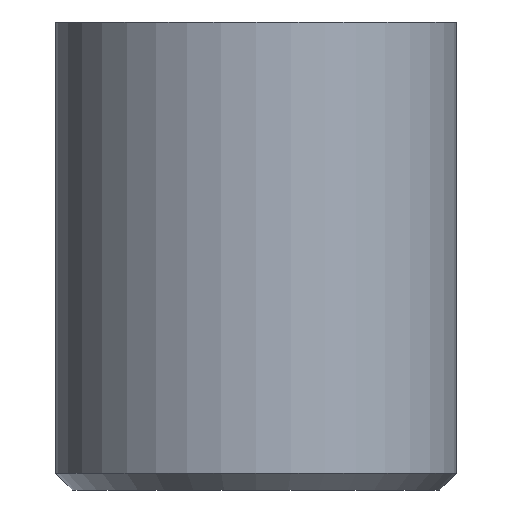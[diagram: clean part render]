
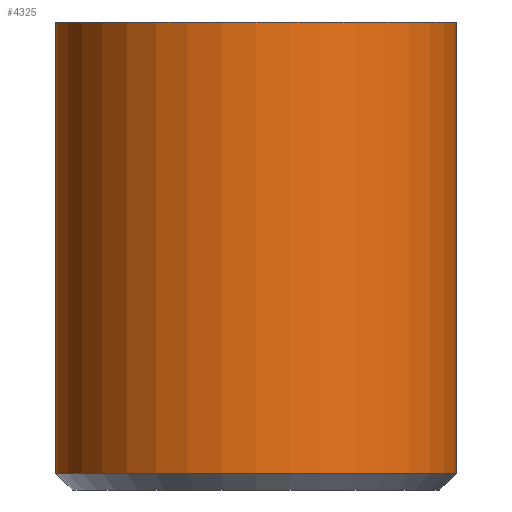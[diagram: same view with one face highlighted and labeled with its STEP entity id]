
A CAD part, front view. The second image highlights one B-rep face of the part: STEP entity #4325.
In plain terms, the highlighted cylindrical face has radius 6 mm (diameter 12 mm), a full revolution.
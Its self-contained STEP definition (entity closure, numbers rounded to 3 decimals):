
#425=CYLINDRICAL_SURFACE('',#4478,6.);
#668=FACE_OUTER_BOUND('',#913,.T.);
#913=EDGE_LOOP('',(#3998,#3999,#4000,#4001));
#1257=LINE('',#8670,#1597);
#1597=VECTOR('',#5094,6.);
#1608=CIRCLE('',#4368,6.);
#1637=CIRCLE('',#4476,6.);
#1671=VERTEX_POINT('',#5195);
#2068=VERTEX_POINT('',#8664);
#2113=EDGE_CURVE('',#1671,#1671,#1608,.T.);
#2712=EDGE_CURVE('',#2068,#2068,#1637,.T.);
#2715=EDGE_CURVE('',#1671,#2068,#1257,.T.);
#3998=ORIENTED_EDGE('',*,*,#2113,.F.);
#3999=ORIENTED_EDGE('',*,*,#2715,.T.);
#4000=ORIENTED_EDGE('',*,*,#2712,.F.);
#4001=ORIENTED_EDGE('',*,*,#2715,.F.);
#4325=ADVANCED_FACE('',(#668),#425,.T.);
#4368=AXIS2_PLACEMENT_3D('',#5196,#4567,#4568);
#4476=AXIS2_PLACEMENT_3D('',#8665,#5087,#5088);
#4478=AXIS2_PLACEMENT_3D('',#8669,#5092,#5093);
#4567=DIRECTION('center_axis',(0.,0.,1.));
#4568=DIRECTION('ref_axis',(1.,0.,0.));
#5087=DIRECTION('center_axis',(0.,0.,-1.));
#5088=DIRECTION('ref_axis',(1.,0.,0.));
#5092=DIRECTION('center_axis',(0.,0.,1.));
#5093=DIRECTION('ref_axis',(1.,0.,0.));
#5094=DIRECTION('',(0.,0.,-1.));
#5195=CARTESIAN_POINT('',(-6.,0.,14.));
#5196=CARTESIAN_POINT('Origin',(0.,0.,14.));
#8664=CARTESIAN_POINT('',(-6.,0.,0.5));
#8665=CARTESIAN_POINT('Origin',(0.,0.,0.5));
#8669=CARTESIAN_POINT('Origin',(0.,0.,0.));
#8670=CARTESIAN_POINT('',(-6.,0.,0.));
